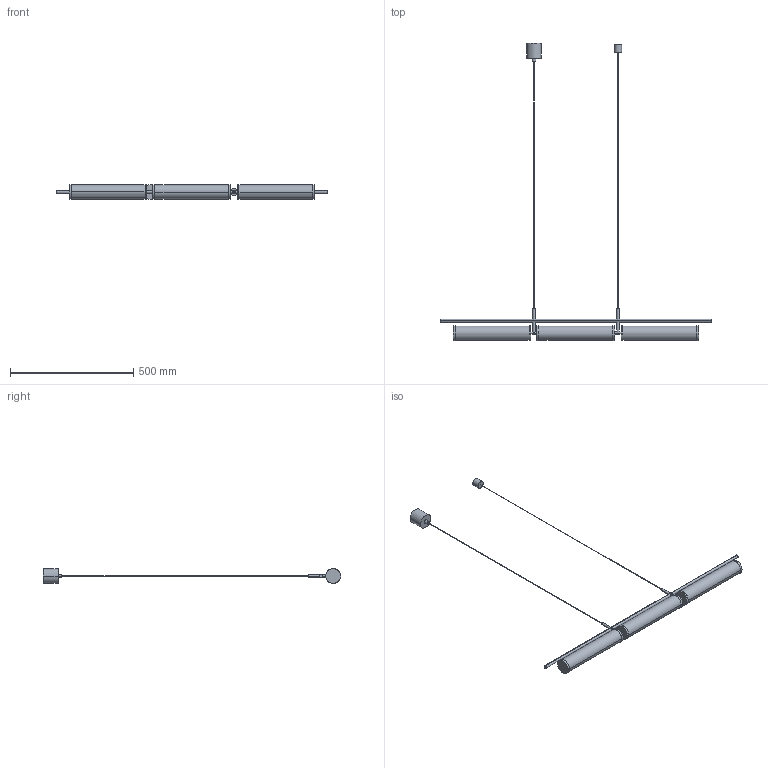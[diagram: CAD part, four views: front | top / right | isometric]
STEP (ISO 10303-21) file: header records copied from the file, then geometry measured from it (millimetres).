
FILE_DESCRIPTION (( 'STEP AP214' ), '1' );
FILE_NAME ('NUMU_C1343_L.STEP', '2025-08-26T07:54:50', ( '' ), ( '' ), 'SwSTEP 2.0', 'SolidWorks 2018', '' );
FILE_SCHEMA (( 'AUTOMOTIVE_DESIGN' ));
Length unit declared in the file: millimetre
Products named in the file (3): estructura colgante multiple 2; NUMU_C1343_L; modulo ison opal colgante
Assembly tree (4 placements, depth 2):
  NUMU_C1343_L
    estructura colgante multiple 2
    modulo ison opal colgante  x3
Bounding box: 1100 x 1205 x 60 mm (x, y, z)
Volume: 2857833.7 mm3; surface area: 307375 mm2
Topology: 18 solids, 18 shells, 82 faces, 130 edges, 86 vertices
Faces by surface type: cylinder 43, plane 39
Entity records: 1720 total; most frequent: CARTESIAN_POINT 389, DIRECTION 270, ORIENTED_EDGE 188, AXIS2_PLACEMENT_3D 119, EDGE_CURVE 94, VERTEX_POINT 62, EDGE_LOOP 60, ADVANCED_FACE 58
